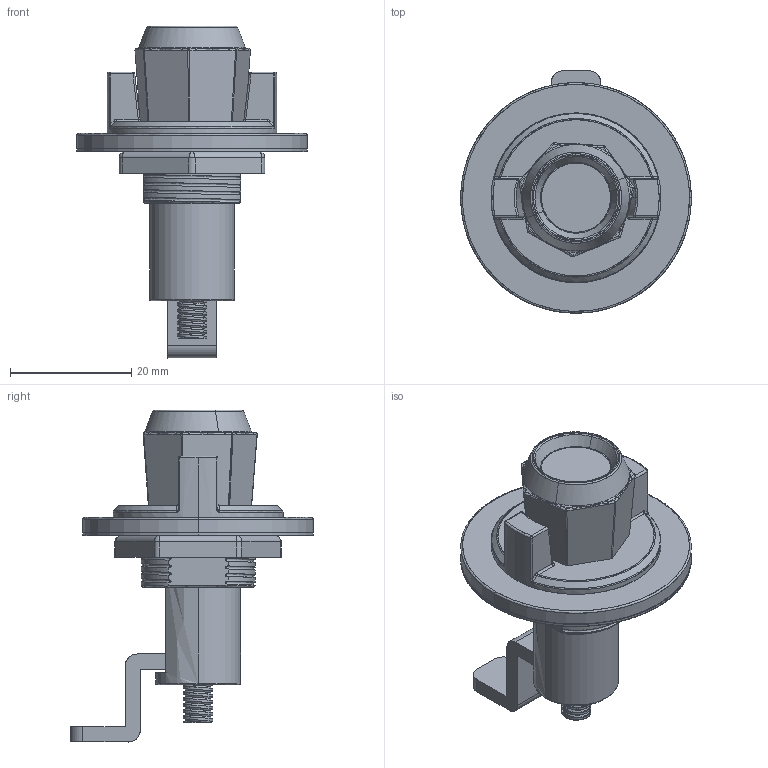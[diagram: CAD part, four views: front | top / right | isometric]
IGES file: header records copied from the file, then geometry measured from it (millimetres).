
Start section: SolidWorks IGES file using analytic representation for surfaces
Bounding box: 38 x 40 x 54.7 mm (x, y, z)
Surface area: 14682.7 mm2 (no closed solid volume)
Topology: 0 solids, 0 shells, 484 faces, 7199 edges, 7054 vertices
Faces by surface type: revolution 262, bspline 222
